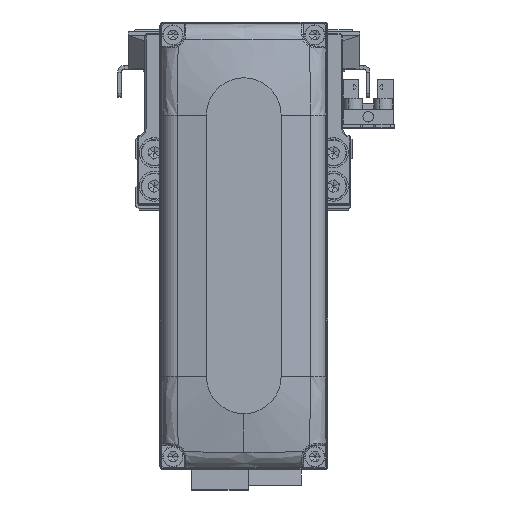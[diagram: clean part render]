
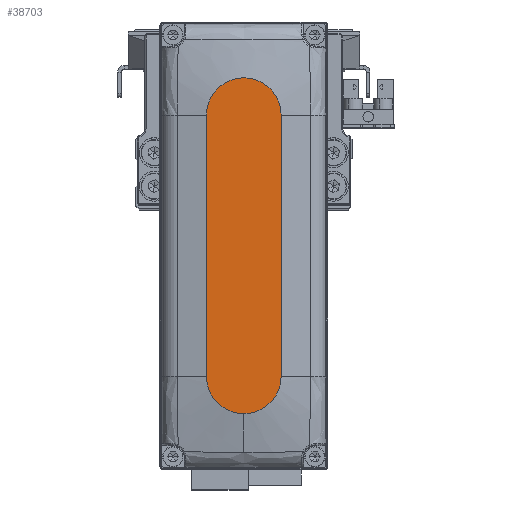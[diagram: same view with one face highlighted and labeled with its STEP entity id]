
A CAD part, top view. The second image highlights one B-rep face of the part: STEP entity #38703.
In plain terms, the highlighted planar face has unit normal (0, 0, 1).
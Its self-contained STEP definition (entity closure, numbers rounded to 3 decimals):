
#72 = EDGE_CURVE ( 'NONE', #39870, #31357, #18076, .T. ) ;
#1682 = VERTEX_POINT ( 'NONE', #10620 ) ;
#2167 = ORIENTED_EDGE ( 'NONE', *, *, #72, .T. ) ;
#2379 = DIRECTION ( 'NONE',  ( -1., 0., 0. ) ) ;
#2568 = EDGE_CURVE ( 'NONE', #1682, #22150, #15996, .T. ) ;
#5129 = DIRECTION ( 'NONE',  ( 1., 0., 0. ) ) ;
#6615 = CARTESIAN_POINT ( 'NONE',  ( 35., 0., 28. ) ) ;
#6624 = ORIENTED_EDGE ( 'NONE', *, *, #12418, .T. ) ;
#8232 = CARTESIAN_POINT ( 'NONE',  ( 0., 0., 28. ) ) ;
#10620 = CARTESIAN_POINT ( 'NONE',  ( 35., -10., 28. ) ) ;
#10926 = ORIENTED_EDGE ( 'NONE', *, *, #34484, .T. ) ;
#11123 = AXIS2_PLACEMENT_3D ( 'NONE', #11520, #24110, #36712 ) ;
#11520 = CARTESIAN_POINT ( 'NONE',  ( -35., 0., 28. ) ) ;
#11624 = CARTESIAN_POINT ( 'NONE',  ( -35., -10., 28. ) ) ;
#12418 = EDGE_CURVE ( 'NONE', #22150, #39870, #30738, .T. ) ;
#12890 = AXIS2_PLACEMENT_3D ( 'NONE', #20817, #33439, #5129 ) ;
#14503 = VECTOR ( 'NONE', #24226, 1000. ) ;
#15145 = CARTESIAN_POINT ( 'NONE',  ( -35., -10., 28. ) ) ;
#15996 = CIRCLE ( 'NONE', #39104, 10. ) ;
#18076 = LINE ( 'NONE', #30713, #36725 ) ;
#19206 = DIRECTION ( 'NONE',  ( 0., 0., 1. ) ) ;
#19644 = CARTESIAN_POINT ( 'NONE',  ( 35., 10., 28. ) ) ;
#20617 = EDGE_CURVE ( 'NONE', #31357, #27683, #28944, .T. ) ;
#20817 = CARTESIAN_POINT ( 'NONE',  ( 35., 0., 28. ) ) ;
#20826 = DIRECTION ( 'NONE',  ( 0., 0., 1. ) ) ;
#22150 = VERTEX_POINT ( 'NONE', #26135 ) ;
#23667 = CARTESIAN_POINT ( 'NONE',  ( -35., 10., 28. ) ) ;
#23936 = FACE_OUTER_BOUND ( 'NONE', #27686, .T. ) ;
#24110 = DIRECTION ( 'NONE',  ( 0., 0., 1. ) ) ;
#24226 = DIRECTION ( 'NONE',  ( 1., 0., 0. ) ) ;
#24825 = AXIS2_PLACEMENT_3D ( 'NONE', #8232, #20826, #33448 ) ;
#26135 = CARTESIAN_POINT ( 'NONE',  ( 45., 0., 28. ) ) ;
#26939 = ORIENTED_EDGE ( 'NONE', *, *, #2568, .T. ) ;
#27683 = VERTEX_POINT ( 'NONE', #15145 ) ;
#27686 = EDGE_LOOP ( 'NONE', ( #2167, #34130, #10926, #26939, #6624 ) ) ;
#28944 = CIRCLE ( 'NONE', #11123, 10. ) ;
#30713 = CARTESIAN_POINT ( 'NONE',  ( -35., 10., 28. ) ) ;
#30738 = CIRCLE ( 'NONE', #12890, 10. ) ;
#31357 = VERTEX_POINT ( 'NONE', #23667 ) ;
#31834 = DIRECTION ( 'NONE',  ( 1., 0., 0. ) ) ;
#33439 = DIRECTION ( 'NONE',  ( 0., 0., 1. ) ) ;
#33448 = DIRECTION ( 'NONE',  ( 1., 0., 0. ) ) ;
#34130 = ORIENTED_EDGE ( 'NONE', *, *, #20617, .T. ) ;
#34484 = EDGE_CURVE ( 'NONE', #27683, #1682, #39921, .T. ) ;
#36546 = PLANE ( 'NONE',  #24825 ) ;
#36712 = DIRECTION ( 'NONE',  ( 1., 0., 0. ) ) ;
#36725 = VECTOR ( 'NONE', #2379, 1000. ) ;
#38703 = ADVANCED_FACE ( 'NONE', ( #23936 ), #36546, .T. ) ;
#39104 = AXIS2_PLACEMENT_3D ( 'NONE', #6615, #19206, #31834 ) ;
#39870 = VERTEX_POINT ( 'NONE', #19644 ) ;
#39921 = LINE ( 'NONE', #11624, #14503 ) ;
